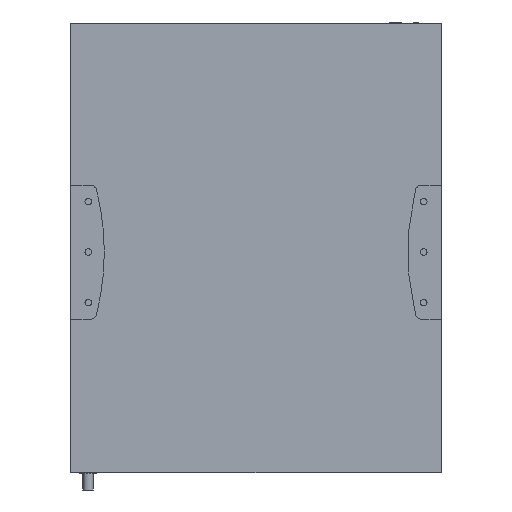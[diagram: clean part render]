
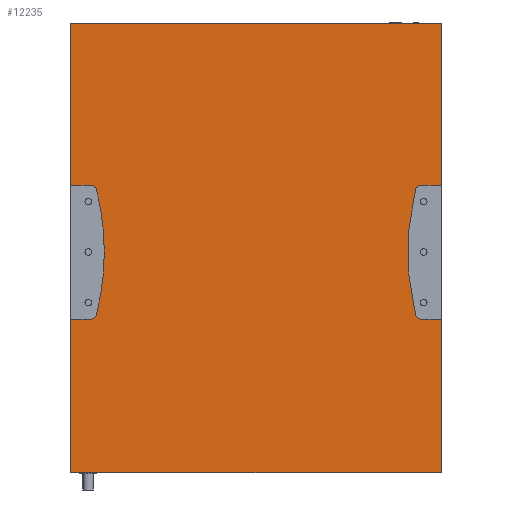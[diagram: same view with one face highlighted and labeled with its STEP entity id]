
A CAD part, front view. The second image highlights one B-rep face of the part: STEP entity #12235.
In plain terms, the highlighted planar face has unit normal (0, -1, 0).
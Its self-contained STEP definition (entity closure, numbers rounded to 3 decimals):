
#142 = DIRECTION ( 'NONE',  ( -1., 0., 0. ) ) ;
#165 = DIRECTION ( 'NONE',  ( 1., 0., 0. ) ) ;
#389 = DIRECTION ( 'NONE',  ( 0., -1., 0. ) ) ;
#990 = DIRECTION ( 'NONE',  ( 0., 0., -1. ) ) ;
#1038 = VERTEX_POINT ( 'NONE', #23951 ) ;
#1109 = CARTESIAN_POINT ( 'NONE',  ( -110.07, -21.8, 133.295 ) ) ;
#1388 = CARTESIAN_POINT ( 'NONE',  ( 98.378, -21.8, -42.1 ) ) ;
#1508 = VERTEX_POINT ( 'NONE', #24426 ) ;
#1614 = ORIENTED_EDGE ( 'NONE', *, *, #14176, .F. ) ;
#1647 = CARTESIAN_POINT ( 'NONE',  ( 110.07, -21.8, -42.1 ) ) ;
#1838 = AXIS2_PLACEMENT_3D ( 'NONE', #26132, #6954, #4849 ) ;
#2092 = EDGE_CURVE ( 'NONE', #1038, #4058, #11091, .T. ) ;
#2226 = EDGE_CURVE ( 'NONE', #3873, #16480, #3211, .T. ) ;
#2619 = ORIENTED_EDGE ( 'NONE', *, *, #20716, .F. ) ;
#2767 = CARTESIAN_POINT ( 'NONE',  ( -110.07, -21.8, -42.1 ) ) ;
#3211 = LINE ( 'NONE', #1109, #26308 ) ;
#3362 = CARTESIAN_POINT ( 'NONE',  ( -110.07, -21.8, 133.295 ) ) ;
#3420 = AXIS2_PLACEMENT_3D ( 'NONE', #3507, #25207, #14563 ) ;
#3507 = CARTESIAN_POINT ( 'NONE',  ( -98.378, -21.8, 33.7 ) ) ;
#3873 = VERTEX_POINT ( 'NONE', #2767 ) ;
#3991 = VERTEX_POINT ( 'NONE', #24743 ) ;
#4058 = VERTEX_POINT ( 'NONE', #14233 ) ;
#4383 = CARTESIAN_POINT ( 'NONE',  ( -110.07, -21.8, 37.5 ) ) ;
#4849 = DIRECTION ( 'NONE',  ( -1., 0., 0. ) ) ;
#4904 = DIRECTION ( 'NONE',  ( 1., 0., 0. ) ) ;
#5047 = LINE ( 'NONE', #10165, #10284 ) ;
#5231 = CARTESIAN_POINT ( 'NONE',  ( -98.378, -21.8, 37.5 ) ) ;
#5428 = CARTESIAN_POINT ( 'NONE',  ( -98.378, -21.8, -42.1 ) ) ;
#5445 = CARTESIAN_POINT ( 'NONE',  ( -110.07, -21.8, 133.295 ) ) ;
#5484 = ORIENTED_EDGE ( 'NONE', *, *, #14302, .T. ) ;
#5491 = VECTOR ( 'NONE', #14134, 1000. ) ;
#6028 = DIRECTION ( 'NONE',  ( 0., -1., 0. ) ) ;
#6644 = VECTOR ( 'NONE', #12311, 1000. ) ;
#6793 = EDGE_CURVE ( 'NONE', #4058, #1508, #21182, .T. ) ;
#6954 = DIRECTION ( 'NONE',  ( 0., 1., 0. ) ) ;
#7155 = CARTESIAN_POINT ( 'NONE',  ( -110.07, -21.8, -133.295 ) ) ;
#7262 = VECTOR ( 'NONE', #22715, 1000. ) ;
#7290 = LINE ( 'NONE', #24366, #16119 ) ;
#7756 = ORIENTED_EDGE ( 'NONE', *, *, #2092, .F. ) ;
#8013 = DIRECTION ( 'NONE',  ( -1., 0., 0. ) ) ;
#8287 = CARTESIAN_POINT ( 'NONE',  ( 98.378, -21.8, 37.5 ) ) ;
#8492 = DIRECTION ( 'NONE',  ( 0., -1., 0. ) ) ;
#8598 = DIRECTION ( 'NONE',  ( 1., 0., 0. ) ) ;
#8900 = ORIENTED_EDGE ( 'NONE', *, *, #24870, .F. ) ;
#9310 = CARTESIAN_POINT ( 'NONE',  ( 110.07, -21.8, 37.5 ) ) ;
#9597 = CIRCLE ( 'NONE', #26160, 3.8 ) ;
#9681 = VERTEX_POINT ( 'NONE', #4383 ) ;
#10109 = EDGE_CURVE ( 'NONE', #13076, #1038, #24173, .T. ) ;
#10165 = CARTESIAN_POINT ( 'NONE',  ( 110.07, -21.8, 133.295 ) ) ;
#10284 = VECTOR ( 'NONE', #990, 1000. ) ;
#10417 = CARTESIAN_POINT ( 'NONE',  ( 94.695, -21.8, -39.237 ) ) ;
#10576 = CIRCLE ( 'NONE', #26247, 3.8 ) ;
#10791 = CARTESIAN_POINT ( 'NONE',  ( 98.378, -21.8, -38.3 ) ) ;
#10997 = ORIENTED_EDGE ( 'NONE', *, *, #10109, .F. ) ;
#11058 = LINE ( 'NONE', #19603, #16221 ) ;
#11091 = CIRCLE ( 'NONE', #13776, 149.8 ) ;
#11682 = DIRECTION ( 'NONE',  ( -1., 0., 0. ) ) ;
#12027 = LINE ( 'NONE', #5445, #5491 ) ;
#12167 = CARTESIAN_POINT ( 'NONE',  ( -110.07, -21.8, -133.295 ) ) ;
#12235 = ADVANCED_FACE ( 'NONE', ( #19684 ), #24444, .F. ) ;
#12311 = DIRECTION ( 'NONE',  ( 1., 0., 0. ) ) ;
#12355 = LINE ( 'NONE', #14726, #7262 ) ;
#12600 = VECTOR ( 'NONE', #8013, 1000. ) ;
#12609 = VERTEX_POINT ( 'NONE', #19794 ) ;
#12794 = ORIENTED_EDGE ( 'NONE', *, *, #19121, .F. ) ;
#12812 = LINE ( 'NONE', #13095, #21912 ) ;
#13076 = VERTEX_POINT ( 'NONE', #5428 ) ;
#13095 = CARTESIAN_POINT ( 'NONE',  ( 98.378, -21.8, -42.1 ) ) ;
#13309 = DIRECTION ( 'NONE',  ( 0., 0., -1. ) ) ;
#13385 = EDGE_CURVE ( 'NONE', #22952, #12609, #10576, .T. ) ;
#13694 = CIRCLE ( 'NONE', #3420, 3.8 ) ;
#13722 = DIRECTION ( 'NONE',  ( 0., 0., -1. ) ) ;
#13726 = VERTEX_POINT ( 'NONE', #10417 ) ;
#13763 = EDGE_CURVE ( 'NONE', #14310, #27020, #12812, .T. ) ;
#13772 = DIRECTION ( 'NONE',  ( -1., 0., 0. ) ) ;
#13776 = AXIS2_PLACEMENT_3D ( 'NONE', #21151, #25488, #142 ) ;
#14134 = DIRECTION ( 'NONE',  ( 0., 0., -1. ) ) ;
#14176 = EDGE_CURVE ( 'NONE', #13726, #14310, #9597, .T. ) ;
#14233 = CARTESIAN_POINT ( 'NONE',  ( -90.07, -21.8, -2.3 ) ) ;
#14302 = EDGE_CURVE ( 'NONE', #16480, #20817, #18322, .T. ) ;
#14310 = VERTEX_POINT ( 'NONE', #1388 ) ;
#14365 = ORIENTED_EDGE ( 'NONE', *, *, #22542, .F. ) ;
#14475 = AXIS2_PLACEMENT_3D ( 'NONE', #17984, #389, #11682 ) ;
#14563 = DIRECTION ( 'NONE',  ( -1., 0., 0. ) ) ;
#14724 = LINE ( 'NONE', #8287, #12600 ) ;
#14726 = CARTESIAN_POINT ( 'NONE',  ( -98.378, -21.8, -42.1 ) ) ;
#15166 = AXIS2_PLACEMENT_3D ( 'NONE', #23336, #20959, #20822 ) ;
#15508 = ORIENTED_EDGE ( 'NONE', *, *, #6793, .F. ) ;
#16119 = VECTOR ( 'NONE', #13722, 1000. ) ;
#16221 = VECTOR ( 'NONE', #4904, 1000. ) ;
#16480 = VERTEX_POINT ( 'NONE', #7155 ) ;
#16587 = EDGE_CURVE ( 'NONE', #1508, #3991, #13694, .T. ) ;
#16907 = ORIENTED_EDGE ( 'NONE', *, *, #22646, .F. ) ;
#17557 = ORIENTED_EDGE ( 'NONE', *, *, #13763, .F. ) ;
#17592 = ORIENTED_EDGE ( 'NONE', *, *, #26209, .F. ) ;
#17967 = EDGE_LOOP ( 'NONE', ( #16907, #17557, #1614, #12794, #26993, #26007, #14365, #8900, #26547, #2619, #26355, #15508, #7756, #10997, #17592, #26935, #5484 ) ) ;
#17972 = LINE ( 'NONE', #5231, #20507 ) ;
#17984 = CARTESIAN_POINT ( 'NONE',  ( -239.87, -21.8, -2.3 ) ) ;
#17993 = CARTESIAN_POINT ( 'NONE',  ( 98.378, -21.8, 37.5 ) ) ;
#18322 = LINE ( 'NONE', #12167, #6644 ) ;
#19121 = EDGE_CURVE ( 'NONE', #12609, #13726, #20521, .T. ) ;
#19272 = VERTEX_POINT ( 'NONE', #25998 ) ;
#19603 = CARTESIAN_POINT ( 'NONE',  ( -110.07, -21.8, 133.295 ) ) ;
#19684 = FACE_OUTER_BOUND ( 'NONE', #17967, .T. ) ;
#19794 = CARTESIAN_POINT ( 'NONE',  ( 94.695, -21.8, 34.637 ) ) ;
#20142 = AXIS2_PLACEMENT_3D ( 'NONE', #27445, #6028, #27314 ) ;
#20507 = VECTOR ( 'NONE', #13772, 1000. ) ;
#20521 = CIRCLE ( 'NONE', #15166, 149.8 ) ;
#20716 = EDGE_CURVE ( 'NONE', #3991, #9681, #17972, .T. ) ;
#20817 = VERTEX_POINT ( 'NONE', #27614 ) ;
#20822 = DIRECTION ( 'NONE',  ( 1., 0., 0. ) ) ;
#20959 = DIRECTION ( 'NONE',  ( 0., -1., 0. ) ) ;
#21151 = CARTESIAN_POINT ( 'NONE',  ( -239.87, -21.8, -2.3 ) ) ;
#21182 = CIRCLE ( 'NONE', #14475, 149.8 ) ;
#21912 = VECTOR ( 'NONE', #8598, 1000. ) ;
#22542 = EDGE_CURVE ( 'NONE', #19272, #25610, #5047, .T. ) ;
#22646 = EDGE_CURVE ( 'NONE', #27020, #20817, #7290, .T. ) ;
#22715 = DIRECTION ( 'NONE',  ( 1., 0., 0. ) ) ;
#22952 = VERTEX_POINT ( 'NONE', #17993 ) ;
#23336 = CARTESIAN_POINT ( 'NONE',  ( 239.87, -21.8, -2.3 ) ) ;
#23476 = DIRECTION ( 'NONE',  ( 1., 0., 0. ) ) ;
#23598 = EDGE_CURVE ( 'NONE', #25610, #22952, #14724, .T. ) ;
#23866 = VERTEX_POINT ( 'NONE', #3362 ) ;
#23951 = CARTESIAN_POINT ( 'NONE',  ( -94.695, -21.8, -39.237 ) ) ;
#24173 = CIRCLE ( 'NONE', #20142, 3.8 ) ;
#24366 = CARTESIAN_POINT ( 'NONE',  ( 110.07, -21.8, 133.295 ) ) ;
#24426 = CARTESIAN_POINT ( 'NONE',  ( -94.695, -21.8, 34.637 ) ) ;
#24444 = PLANE ( 'NONE',  #1838 ) ;
#24743 = CARTESIAN_POINT ( 'NONE',  ( -98.378, -21.8, 37.5 ) ) ;
#24870 = EDGE_CURVE ( 'NONE', #23866, #19272, #11058, .T. ) ;
#24901 = EDGE_CURVE ( 'NONE', #23866, #9681, #12027, .T. ) ;
#25207 = DIRECTION ( 'NONE',  ( 0., -1., 0. ) ) ;
#25378 = DIRECTION ( 'NONE',  ( 0., -1., 0. ) ) ;
#25488 = DIRECTION ( 'NONE',  ( 0., -1., 0. ) ) ;
#25610 = VERTEX_POINT ( 'NONE', #9310 ) ;
#25998 = CARTESIAN_POINT ( 'NONE',  ( 110.07, -21.8, 133.295 ) ) ;
#26007 = ORIENTED_EDGE ( 'NONE', *, *, #23598, .F. ) ;
#26132 = CARTESIAN_POINT ( 'NONE',  ( -110.07, -21.8, 133.295 ) ) ;
#26160 = AXIS2_PLACEMENT_3D ( 'NONE', #10791, #25378, #165 ) ;
#26209 = EDGE_CURVE ( 'Edge4', #3873, #13076, #12355, .T. ) ;
#26247 = AXIS2_PLACEMENT_3D ( 'NONE', #27674, #8492, #23476 ) ;
#26308 = VECTOR ( 'NONE', #13309, 1000. ) ;
#26355 = ORIENTED_EDGE ( 'NONE', *, *, #16587, .F. ) ;
#26547 = ORIENTED_EDGE ( 'NONE', *, *, #24901, .T. ) ;
#26935 = ORIENTED_EDGE ( 'NONE', *, *, #2226, .T. ) ;
#26993 = ORIENTED_EDGE ( 'NONE', *, *, #13385, .F. ) ;
#27020 = VERTEX_POINT ( 'NONE', #1647 ) ;
#27314 = DIRECTION ( 'NONE',  ( -1., 0., 0. ) ) ;
#27445 = CARTESIAN_POINT ( 'NONE',  ( -98.378, -21.8, -38.3 ) ) ;
#27614 = CARTESIAN_POINT ( 'NONE',  ( 110.07, -21.8, -133.295 ) ) ;
#27674 = CARTESIAN_POINT ( 'NONE',  ( 98.378, -21.8, 33.7 ) ) ;
